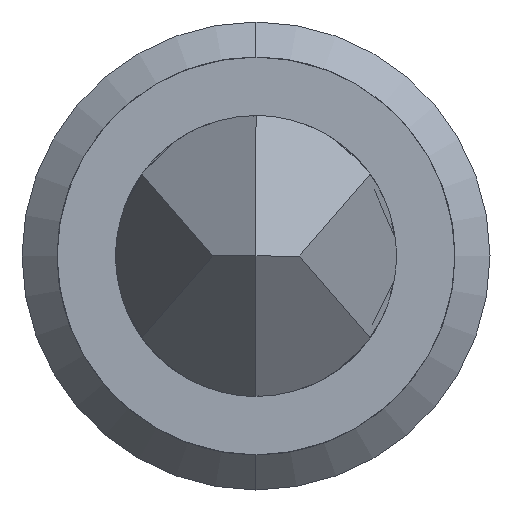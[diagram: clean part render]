
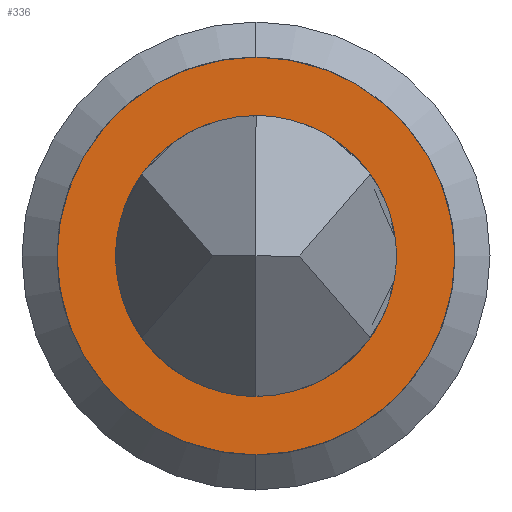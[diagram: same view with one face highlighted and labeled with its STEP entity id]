
A CAD part, left-side view. The second image highlights one B-rep face of the part: STEP entity #336.
In plain terms, the highlighted planar face has unit normal (-1, 0, 0).
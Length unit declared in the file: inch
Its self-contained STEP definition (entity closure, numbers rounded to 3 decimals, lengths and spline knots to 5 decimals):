
#5 = CARTESIAN_POINT ( 'NONE',  ( 0.33, -0.00449, -0.017 ) ) ;
#6 = CARTESIAN_POINT ( 'NONE',  ( 0.33, 0., 0.017 ) ) ;
#8 = CARTESIAN_POINT ( 'NONE',  ( 0.33, 0., 0.017 ) ) ;
#44 = DIRECTION ( 'NONE',  ( -1., 0., 0. ) ) ;
#77 = CARTESIAN_POINT ( 'NONE',  ( 0.33, 0.00886, -0.01519 ) ) ;
#102 = CARTESIAN_POINT ( 'NONE',  ( 0.33, -0.00449, 0.017 ) ) ;
#116 = B_SPLINE_CURVE_WITH_KNOTS ( 'NONE', 3,
 ( #495, #5, #767, #165, #604, #280, #539, #773, #102, #383 ),
 .UNSPECIFIED., .F., .F.,
 ( 4, 2, 2, 2, 4 ),
 ( 0.00135, 0.00169, 0.00202, 0.00236, 0.0027 ),
 .UNSPECIFIED. ) ;
#150 = CARTESIAN_POINT ( 'NONE',  ( 0.33, 0., -0.017 ) ) ;
#158 = AXIS2_PLACEMENT_3D ( 'NONE', #716, #44, #887 ) ;
#165 = CARTESIAN_POINT ( 'NONE',  ( 0.33, -0.01516, -0.00888 ) ) ;
#196 = VERTEX_POINT ( 'NONE', #6 ) ;
#234 = EDGE_LOOP ( 'NONE', ( #805, #674 ) ) ;
#280 = CARTESIAN_POINT ( 'NONE',  ( 0.33, -0.017, 0.00442 ) ) ;
#283 = CARTESIAN_POINT ( 'NONE',  ( 0.33, 0.00449, 0.017 ) ) ;
#336 = ADVANCED_FACE ( 'NONE', ( #535 ), #861, .T. ) ;
#348 = CARTESIAN_POINT ( 'NONE',  ( 0.33, 0.00449, -0.017 ) ) ;
#383 = CARTESIAN_POINT ( 'NONE',  ( 0.33, 0., 0.017 ) ) ;
#469 = CARTESIAN_POINT ( 'NONE',  ( 0.33, 0.00888, 0.01516 ) ) ;
#480 = CARTESIAN_POINT ( 'NONE',  ( 0.33, 0.01516, 0.00888 ) ) ;
#488 = EDGE_CURVE ( 'NONE', #196, #619, #627, .T. ) ;
#495 = CARTESIAN_POINT ( 'NONE',  ( 0.33, 0., -0.017 ) ) ;
#535 = FACE_OUTER_BOUND ( 'NONE', #234, .T. ) ;
#539 = CARTESIAN_POINT ( 'NONE',  ( 0.33, -0.0152, 0.00884 ) ) ;
#545 = CARTESIAN_POINT ( 'NONE',  ( 0.33, 0.017, -0.00442 ) ) ;
#604 = CARTESIAN_POINT ( 'NONE',  ( 0.33, -0.017, -0.00445 ) ) ;
#619 = VERTEX_POINT ( 'NONE', #150 ) ;
#627 = B_SPLINE_CURVE_WITH_KNOTS ( 'NONE', 3,
 ( #8, #283, #469, #480, #685, #545, #823, #77, #348, #742 ),
 .UNSPECIFIED., .F., .F.,
 ( 4, 2, 2, 2, 4 ),
 ( 0., 0.00034, 0.00067, 0.00101, 0.00135 ),
 .UNSPECIFIED. ) ;
#664 = EDGE_CURVE ( 'NONE', #619, #196, #116, .T. ) ;
#674 = ORIENTED_EDGE ( 'NONE', *, *, #488, .T. ) ;
#685 = CARTESIAN_POINT ( 'NONE',  ( 0.33, 0.017, 0.00445 ) ) ;
#716 = CARTESIAN_POINT ( 'NONE',  ( 0.33, 0., 0. ) ) ;
#742 = CARTESIAN_POINT ( 'NONE',  ( 0.33, 0., -0.017 ) ) ;
#767 = CARTESIAN_POINT ( 'NONE',  ( 0.33, -0.00888, -0.01516 ) ) ;
#773 = CARTESIAN_POINT ( 'NONE',  ( 0.33, -0.00886, 0.01519 ) ) ;
#805 = ORIENTED_EDGE ( 'NONE', *, *, #664, .T. ) ;
#823 = CARTESIAN_POINT ( 'NONE',  ( 0.33, 0.0152, -0.00884 ) ) ;
#861 = PLANE ( 'NONE',  #158 ) ;
#887 = DIRECTION ( 'NONE',  ( 0., 0., 1. ) ) ;
